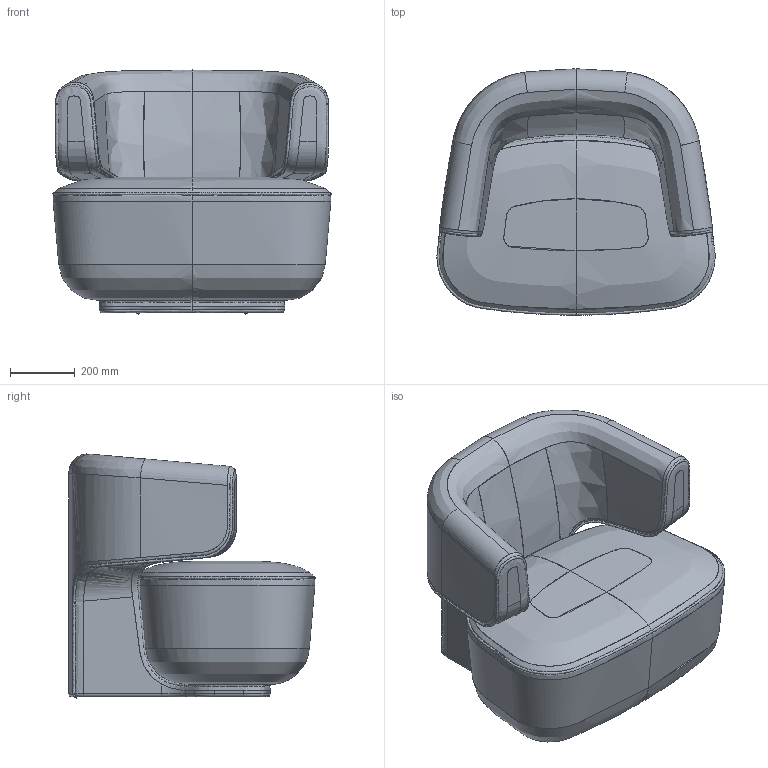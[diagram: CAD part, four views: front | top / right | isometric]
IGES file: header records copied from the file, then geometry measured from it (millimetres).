
Global section: file name: C:\Users\market02\Desktop\RYAN\litho plan\fait\PierreFrey_Delvigne_Litho_Fauteuil\PierreFrey_Delvigne_Litho_Fauteuil.igs; native system: Rhinoceros ( Dec 14 2021 ); preprocessor: Trout Lake IGES 012 Dec 14 2021; date: 220725.124109; units: millimetre
Bounding box: 857.18 x 758.64 x 751.65 mm (x, y, z)
Surface area: 3691512.7 mm2 (no closed solid volume)
Topology: 0 solids, 0 shells, 118 faces, 3230 edges, 3194 vertices
Faces by surface type: bspline 118
